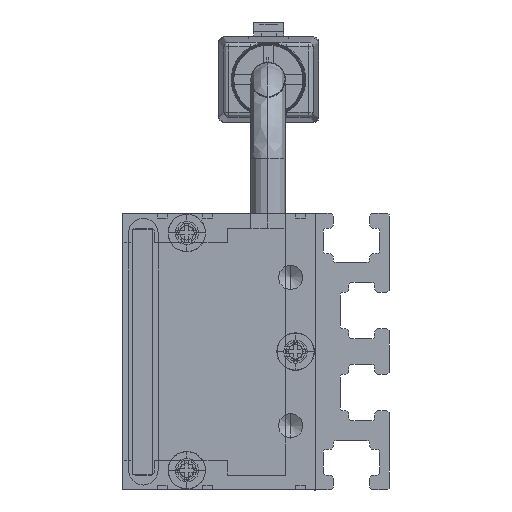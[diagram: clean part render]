
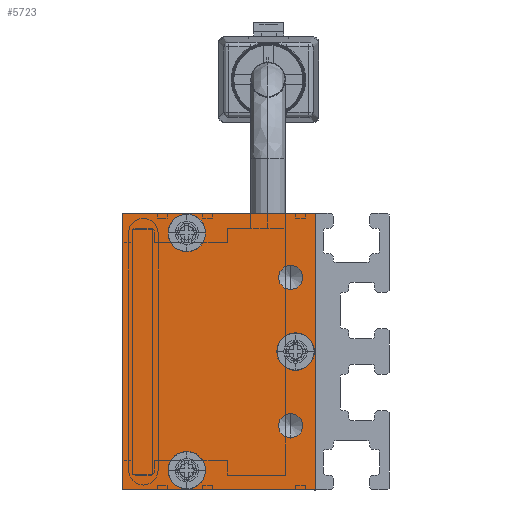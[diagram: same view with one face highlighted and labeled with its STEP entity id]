
A CAD part, left-side view. The second image highlights one B-rep face of the part: STEP entity #5723.
In plain terms, the highlighted planar face has unit normal (-1, 0, 0) as drawn and (0, 0, -1) by its records, which use the part's own axes.
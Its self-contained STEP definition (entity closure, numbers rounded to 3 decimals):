
#71 = DIRECTION ( 'NONE',  ( -1., 0., 0. ) ) ;
#92 = VERTEX_POINT ( 'NONE', #9607 ) ;
#166 = ORIENTED_EDGE ( 'NONE', *, *, #2632, .F. ) ;
#244 = AXIS2_PLACEMENT_3D ( 'NONE', #13872, #10685, #10623 ) ;
#479 = FACE_BOUND ( 'NONE', #7932, .T. ) ;
#743 = CARTESIAN_POINT ( 'NONE',  ( 14., 0., -2.5 ) ) ;
#746 = EDGE_CURVE ( 'NONE', #11567, #5181, #10216, .T. ) ;
#955 = DIRECTION ( 'NONE',  ( 0., 0., -1. ) ) ;
#987 = CARTESIAN_POINT ( 'NONE',  ( 14., 19.5, -2.5 ) ) ;
#1173 = EDGE_CURVE ( 'NONE', #5040, #3461, #13519, .T. ) ;
#1385 = CARTESIAN_POINT ( 'NONE',  ( 10.1, 13., -2.5 ) ) ;
#1449 = ORIENTED_EDGE ( 'NONE', *, *, #2751, .F. ) ;
#1486 = CARTESIAN_POINT ( 'NONE',  ( -14., 19.5, -2.5 ) ) ;
#1564 = VERTEX_POINT ( 'NONE', #3157 ) ;
#1617 = PLANE ( 'NONE',  #6485 ) ;
#1701 = DIRECTION ( 'NONE',  ( -1., 0., 0. ) ) ;
#1722 = ORIENTED_EDGE ( 'NONE', *, *, #13080, .F. ) ;
#1838 = VERTEX_POINT ( 'NONE', #13687 ) ;
#2140 = VECTOR ( 'NONE', #5374, 1000. ) ;
#2149 = CARTESIAN_POINT ( 'NONE',  ( 0., 2., -2.5 ) ) ;
#2323 = EDGE_CURVE ( 'NONE', #6714, #11567, #9882, .T. ) ;
#2400 = CARTESIAN_POINT ( 'NONE',  ( -7.5, 2.5, -2.5 ) ) ;
#2484 = FACE_BOUND ( 'NONE', #5239, .T. ) ;
#2490 = CARTESIAN_POINT ( 'NONE',  ( -13.9, 13., -2.5 ) ) ;
#2632 = EDGE_CURVE ( 'NONE', #92, #7783, #3247, .T. ) ;
#2751 = EDGE_CURVE ( 'NONE', #4555, #11801, #5996, .T. ) ;
#2830 = AXIS2_PLACEMENT_3D ( 'NONE', #5762, #5554, #10090 ) ;
#3028 = CIRCLE ( 'NONE', #6438, 1.9 ) ;
#3088 = CARTESIAN_POINT ( 'NONE',  ( 12., 13., -2.5 ) ) ;
#3110 = CARTESIAN_POINT ( 'NONE',  ( -12., 13., -2.5 ) ) ;
#3121 = ORIENTED_EDGE ( 'NONE', *, *, #3606, .F. ) ;
#3157 = CARTESIAN_POINT ( 'NONE',  ( 6.25, 2.5, -2.5 ) ) ;
#3247 = CIRCLE ( 'NONE', #5527, 1.25 ) ;
#3372 = DIRECTION ( 'NONE',  ( 0., 0., -1. ) ) ;
#3461 = VERTEX_POINT ( 'NONE', #2490 ) ;
#3508 = EDGE_LOOP ( 'NONE', ( #166, #10267 ) ) ;
#3538 = EDGE_LOOP ( 'NONE', ( #5052, #3121, #13691, #5517 ) ) ;
#3606 = EDGE_CURVE ( 'NONE', #5181, #6983, #6511, .T. ) ;
#3624 = FACE_BOUND ( 'NONE', #3508, .T. ) ;
#3673 = CIRCLE ( 'NONE', #244, 1.9 ) ;
#3894 = DIRECTION ( 'NONE',  ( 0., 0., -1. ) ) ;
#4159 = AXIS2_PLACEMENT_3D ( 'NONE', #5785, #12152, #7976 ) ;
#4189 = CIRCLE ( 'NONE', #2830, 1.25 ) ;
#4429 = CIRCLE ( 'NONE', #12125, 1.9 ) ;
#4555 = VERTEX_POINT ( 'NONE', #1385 ) ;
#4622 = VECTOR ( 'NONE', #1701, 1000. ) ;
#4761 = FACE_BOUND ( 'NONE', #12353, .T. ) ;
#4932 = AXIS2_PLACEMENT_3D ( 'NONE', #3110, #955, #9646 ) ;
#5040 = VERTEX_POINT ( 'NONE', #9869 ) ;
#5052 = ORIENTED_EDGE ( 'NONE', *, *, #13942, .F. ) ;
#5061 = AXIS2_PLACEMENT_3D ( 'NONE', #3088, #3372, #8607 ) ;
#5181 = VERTEX_POINT ( 'NONE', #11618 ) ;
#5239 = EDGE_LOOP ( 'NONE', ( #1449, #6598 ) ) ;
#5374 = DIRECTION ( 'NONE',  ( 0., 1., 0. ) ) ;
#5517 = ORIENTED_EDGE ( 'NONE', *, *, #2323, .F. ) ;
#5527 = AXIS2_PLACEMENT_3D ( 'NONE', #2400, #10840, #10904 ) ;
#5554 = DIRECTION ( 'NONE',  ( 0., 0., -1. ) ) ;
#5723 = ADVANCED_FACE ( 'NONE', ( #2484, #479, #4761, #9234, #3624, #12264 ), #1617, .T. ) ;
#5762 = CARTESIAN_POINT ( 'NONE',  ( -7.5, 2.5, -2.5 ) ) ;
#5785 = CARTESIAN_POINT ( 'NONE',  ( 7.5, 2.5, -2.5 ) ) ;
#5960 = DIRECTION ( 'NONE',  ( -1., 0., 0. ) ) ;
#5996 = CIRCLE ( 'NONE', #9828, 1.9 ) ;
#6040 = CARTESIAN_POINT ( 'NONE',  ( 7.5, 2.5, -2.5 ) ) ;
#6087 = CARTESIAN_POINT ( 'NONE',  ( -14., 19.5, -2.5 ) ) ;
#6122 = VERTEX_POINT ( 'NONE', #11897 ) ;
#6438 = AXIS2_PLACEMENT_3D ( 'NONE', #2149, #8670, #71 ) ;
#6485 = AXIS2_PLACEMENT_3D ( 'NONE', #6825, #10290, #10364 ) ;
#6511 = LINE ( 'NONE', #12083, #10967 ) ;
#6548 = CARTESIAN_POINT ( 'NONE',  ( -6.25, 2.5, -2.5 ) ) ;
#6598 = ORIENTED_EDGE ( 'NONE', *, *, #11714, .F. ) ;
#6714 = VERTEX_POINT ( 'NONE', #987 ) ;
#6802 = EDGE_CURVE ( 'NONE', #7783, #92, #4189, .T. ) ;
#6825 = CARTESIAN_POINT ( 'NONE',  ( 0., 0., -2.5 ) ) ;
#6983 = VERTEX_POINT ( 'NONE', #743 ) ;
#7067 = ORIENTED_EDGE ( 'NONE', *, *, #7457, .F. ) ;
#7153 = AXIS2_PLACEMENT_3D ( 'NONE', #6040, #3894, #12251 ) ;
#7457 = EDGE_CURVE ( 'NONE', #1564, #13707, #11201, .T. ) ;
#7547 = CIRCLE ( 'NONE', #5061, 1.9 ) ;
#7680 = EDGE_CURVE ( 'NONE', #6122, #1838, #4429, .T. ) ;
#7783 = VERTEX_POINT ( 'NONE', #6548 ) ;
#7932 = EDGE_LOOP ( 'NONE', ( #12178, #12118 ) ) ;
#7976 = DIRECTION ( 'NONE',  ( -1., 0., 0. ) ) ;
#8607 = DIRECTION ( 'NONE',  ( -1., 0., 0. ) ) ;
#8635 = CARTESIAN_POINT ( 'NONE',  ( 12., 13., -2.5 ) ) ;
#8670 = DIRECTION ( 'NONE',  ( 0., 0., -1. ) ) ;
#8810 = EDGE_LOOP ( 'NONE', ( #7067, #10745 ) ) ;
#8889 = CARTESIAN_POINT ( 'NONE',  ( 14., 19.5, -2.5 ) ) ;
#9116 = CARTESIAN_POINT ( 'NONE',  ( 0., 2., -2.5 ) ) ;
#9234 = FACE_BOUND ( 'NONE', #8810, .T. ) ;
#9607 = CARTESIAN_POINT ( 'NONE',  ( -8.75, 2.5, -2.5 ) ) ;
#9646 = DIRECTION ( 'NONE',  ( -1., 0., 0. ) ) ;
#9828 = AXIS2_PLACEMENT_3D ( 'NONE', #8635, #13536, #5960 ) ;
#9869 = CARTESIAN_POINT ( 'NONE',  ( -10.1, 13., -2.5 ) ) ;
#9882 = LINE ( 'NONE', #1486, #4622 ) ;
#10090 = DIRECTION ( 'NONE',  ( -1., 0., 0. ) ) ;
#10112 = CARTESIAN_POINT ( 'NONE',  ( 13.9, 13., -2.5 ) ) ;
#10216 = LINE ( 'NONE', #12260, #11911 ) ;
#10267 = ORIENTED_EDGE ( 'NONE', *, *, #6802, .F. ) ;
#10290 = DIRECTION ( 'NONE',  ( 0., 0., -1. ) ) ;
#10364 = DIRECTION ( 'NONE',  ( -1., 0., 0. ) ) ;
#10455 = DIRECTION ( 'NONE',  ( 0., 0., -1. ) ) ;
#10623 = DIRECTION ( 'NONE',  ( -1., 0., 0. ) ) ;
#10685 = DIRECTION ( 'NONE',  ( 0., 0., -1. ) ) ;
#10745 = ORIENTED_EDGE ( 'NONE', *, *, #11735, .F. ) ;
#10840 = DIRECTION ( 'NONE',  ( 0., 0., -1. ) ) ;
#10904 = DIRECTION ( 'NONE',  ( -1., 0., 0. ) ) ;
#10954 = EDGE_CURVE ( 'NONE', #3461, #5040, #3673, .T. ) ;
#10967 = VECTOR ( 'NONE', #12937, 1000. ) ;
#11001 = CARTESIAN_POINT ( 'NONE',  ( 8.75, 2.5, -2.5 ) ) ;
#11201 = CIRCLE ( 'NONE', #7153, 1.25 ) ;
#11299 = ORIENTED_EDGE ( 'NONE', *, *, #7680, .F. ) ;
#11391 = CIRCLE ( 'NONE', #4159, 1.25 ) ;
#11567 = VERTEX_POINT ( 'NONE', #6087 ) ;
#11618 = CARTESIAN_POINT ( 'NONE',  ( -14., 0., -2.5 ) ) ;
#11714 = EDGE_CURVE ( 'NONE', #11801, #4555, #7547, .T. ) ;
#11735 = EDGE_CURVE ( 'NONE', #13707, #1564, #11391, .T. ) ;
#11801 = VERTEX_POINT ( 'NONE', #10112 ) ;
#11871 = LINE ( 'NONE', #8889, #2140 ) ;
#11897 = CARTESIAN_POINT ( 'NONE',  ( 1.9, 2., -2.5 ) ) ;
#11911 = VECTOR ( 'NONE', #12725, 1000. ) ;
#12083 = CARTESIAN_POINT ( 'NONE',  ( 14., 0., -2.5 ) ) ;
#12118 = ORIENTED_EDGE ( 'NONE', *, *, #1173, .F. ) ;
#12125 = AXIS2_PLACEMENT_3D ( 'NONE', #9116, #10455, #13574 ) ;
#12152 = DIRECTION ( 'NONE',  ( 0., 0., -1. ) ) ;
#12178 = ORIENTED_EDGE ( 'NONE', *, *, #10954, .F. ) ;
#12251 = DIRECTION ( 'NONE',  ( -1., 0., 0. ) ) ;
#12260 = CARTESIAN_POINT ( 'NONE',  ( -14., 0., -2.5 ) ) ;
#12264 = FACE_OUTER_BOUND ( 'NONE', #3538, .T. ) ;
#12353 = EDGE_LOOP ( 'NONE', ( #1722, #11299 ) ) ;
#12725 = DIRECTION ( 'NONE',  ( 0., -1., 0. ) ) ;
#12937 = DIRECTION ( 'NONE',  ( 1., 0., 0. ) ) ;
#13080 = EDGE_CURVE ( 'NONE', #1838, #6122, #3028, .T. ) ;
#13519 = CIRCLE ( 'NONE', #4932, 1.9 ) ;
#13536 = DIRECTION ( 'NONE',  ( 0., 0., -1. ) ) ;
#13574 = DIRECTION ( 'NONE',  ( -1., 0., 0. ) ) ;
#13687 = CARTESIAN_POINT ( 'NONE',  ( -1.9, 2., -2.5 ) ) ;
#13691 = ORIENTED_EDGE ( 'NONE', *, *, #746, .F. ) ;
#13707 = VERTEX_POINT ( 'NONE', #11001 ) ;
#13872 = CARTESIAN_POINT ( 'NONE',  ( -12., 13., -2.5 ) ) ;
#13942 = EDGE_CURVE ( 'NONE', #6983, #6714, #11871, .T. ) ;
